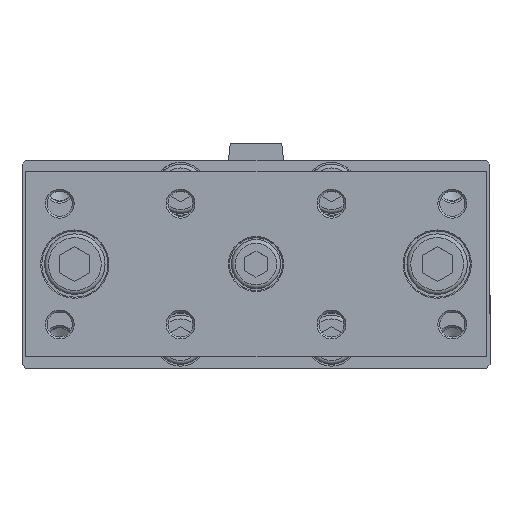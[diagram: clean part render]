
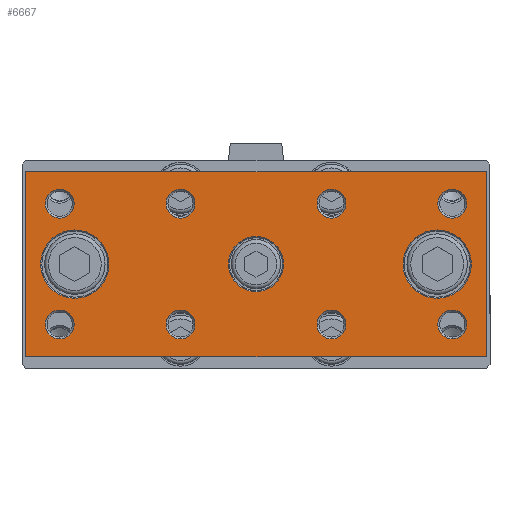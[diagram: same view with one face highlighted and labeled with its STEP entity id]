
A CAD part, top view. The second image highlights one B-rep face of the part: STEP entity #6667.
In plain terms, the highlighted planar face has unit normal (0, 0, 1).
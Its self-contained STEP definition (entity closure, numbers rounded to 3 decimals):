
#6503=CARTESIAN_POINT('',(-38.352,1.555,193.5));
#6504=VERTEX_POINT('',#6503);
#6505=CARTESIAN_POINT('',(-47.402,1.555,193.5));
#6506=DIRECTION('',(0.0,0.0,1.0));
#6507=DIRECTION('',(-1.0,0.0,0.0));
#6508=AXIS2_PLACEMENT_3D('',#6505,#6506,#6507);
#6509=CIRCLE('',#6508,9.05);
#6510=EDGE_CURVE('',#6504,#6504,#6509,.T.);
#6515=CARTESIAN_POINT('',(0.598,5.555,193.5));
#6516=DIRECTION('',(0.0,0.0,1.0));
#6517=DIRECTION('',(1.0,0.0,0.0));
#6518=AXIS2_PLACEMENT_3D('',#6515,#6516,#6517);
#6519=PLANE('',#6518);
#6520=CARTESIAN_POINT('',(61.598,26.055,193.5));
#6521=VERTEX_POINT('',#6520);
#6522=CARTESIAN_POINT('',(61.598,-22.945,193.5));
#6523=VERTEX_POINT('',#6522);
#6524=CARTESIAN_POINT('',(61.598,26.055,193.5));
#6525=DIRECTION('',(0.0,-1.0,0.0));
#6526=VECTOR('',#6525,49.);
#6527=LINE('',#6524,#6526);
#6528=EDGE_CURVE('',#6521,#6523,#6527,.T.);
#6529=ORIENTED_EDGE('',*,*,#6528,.F.);
#6530=CARTESIAN_POINT('',(-60.402,26.055,193.5));
#6531=VERTEX_POINT('',#6530);
#6532=CARTESIAN_POINT('',(-60.402,26.055,193.5));
#6533=DIRECTION('',(1.0,0.0,0.0));
#6534=VECTOR('',#6533,122.0);
#6535=LINE('',#6532,#6534);
#6536=EDGE_CURVE('',#6531,#6521,#6535,.T.);
#6537=ORIENTED_EDGE('',*,*,#6536,.F.);
#6538=CARTESIAN_POINT('',(-60.402,-22.945,193.5));
#6539=VERTEX_POINT('',#6538);
#6540=CARTESIAN_POINT('',(-60.402,-22.945,193.5));
#6541=DIRECTION('',(0.0,1.0,0.0));
#6542=VECTOR('',#6541,49.);
#6543=LINE('',#6540,#6542);
#6544=EDGE_CURVE('',#6539,#6531,#6543,.T.);
#6545=ORIENTED_EDGE('',*,*,#6544,.F.);
#6546=CARTESIAN_POINT('',(61.598,-22.945,193.5));
#6547=DIRECTION('',(-1.0,0.0,0.0));
#6548=VECTOR('',#6547,122.0);
#6549=LINE('',#6546,#6548);
#6550=EDGE_CURVE('',#6523,#6539,#6549,.T.);
#6551=ORIENTED_EDGE('',*,*,#6550,.F.);
#6552=EDGE_LOOP('',(#6529,#6537,#6545,#6551));
#6553=FACE_OUTER_BOUND('',#6552,.T.);
#6554=CARTESIAN_POINT('',(7.898,1.555,193.5));
#6555=VERTEX_POINT('',#6554);
#6556=CARTESIAN_POINT('',(0.598,1.555,193.5));
#6557=DIRECTION('',(0.0,0.0,1.0));
#6558=DIRECTION('',(-1.0,0.0,0.0));
#6559=AXIS2_PLACEMENT_3D('',#6556,#6557,#6558);
#6560=CIRCLE('',#6559,7.3);
#6561=EDGE_CURVE('',#6555,#6555,#6560,.T.);
#6562=ORIENTED_EDGE('',*,*,#6561,.F.);
#6563=EDGE_LOOP('',(#6562));
#6564=FACE_BOUND('',#6563,.T.);
#6565=CARTESIAN_POINT('',(24.422,-14.445,193.5));
#6566=VERTEX_POINT('',#6565);
#6567=CARTESIAN_POINT('',(20.598,-14.445,193.5));
#6568=DIRECTION('',(0.0,0.0,1.0));
#6569=DIRECTION('',(-1.0,0.0,0.0));
#6570=AXIS2_PLACEMENT_3D('',#6567,#6568,#6569);
#6571=CIRCLE('',#6570,3.824);
#6572=EDGE_CURVE('',#6566,#6566,#6571,.T.);
#6573=ORIENTED_EDGE('',*,*,#6572,.F.);
#6574=EDGE_LOOP('',(#6573));
#6575=FACE_BOUND('',#6574,.T.);
#6576=CARTESIAN_POINT('',(-47.578,-14.445,193.5));
#6577=VERTEX_POINT('',#6576);
#6578=CARTESIAN_POINT('',(-51.402,-14.445,193.5));
#6579=DIRECTION('',(0.0,0.0,1.0));
#6580=DIRECTION('',(-1.0,0.0,0.0));
#6581=AXIS2_PLACEMENT_3D('',#6578,#6579,#6580);
#6582=CIRCLE('',#6581,3.823);
#6583=EDGE_CURVE('',#6577,#6577,#6582,.T.);
#6584=ORIENTED_EDGE('',*,*,#6583,.F.);
#6585=EDGE_LOOP('',(#6584));
#6586=FACE_BOUND('',#6585,.T.);
#6587=CARTESIAN_POINT('',(56.422,17.555,193.5));
#6588=VERTEX_POINT('',#6587);
#6589=CARTESIAN_POINT('',(52.598,17.555,193.5));
#6590=DIRECTION('',(0.0,0.0,1.0));
#6591=DIRECTION('',(-1.0,0.0,0.0));
#6592=AXIS2_PLACEMENT_3D('',#6589,#6590,#6591);
#6593=CIRCLE('',#6592,3.823);
#6594=EDGE_CURVE('',#6588,#6588,#6593,.T.);
#6595=ORIENTED_EDGE('',*,*,#6594,.F.);
#6596=EDGE_LOOP('',(#6595));
#6597=FACE_BOUND('',#6596,.T.);
#6598=CARTESIAN_POINT('',(56.422,-14.445,193.5));
#6599=VERTEX_POINT('',#6598);
#6600=CARTESIAN_POINT('',(52.598,-14.445,193.5));
#6601=DIRECTION('',(0.0,0.0,1.0));
#6602=DIRECTION('',(-1.0,0.0,0.0));
#6603=AXIS2_PLACEMENT_3D('',#6600,#6601,#6602);
#6604=CIRCLE('',#6603,3.823);
#6605=EDGE_CURVE('',#6599,#6599,#6604,.T.);
#6606=ORIENTED_EDGE('',*,*,#6605,.F.);
#6607=EDGE_LOOP('',(#6606));
#6608=FACE_BOUND('',#6607,.T.);
#6609=CARTESIAN_POINT('',(-47.578,17.555,193.5));
#6610=VERTEX_POINT('',#6609);
#6611=CARTESIAN_POINT('',(-51.402,17.555,193.5));
#6612=DIRECTION('',(0.0,0.0,1.0));
#6613=DIRECTION('',(-1.0,0.0,0.0));
#6614=AXIS2_PLACEMENT_3D('',#6611,#6612,#6613);
#6615=CIRCLE('',#6614,3.823);
#6616=EDGE_CURVE('',#6610,#6610,#6615,.T.);
#6617=ORIENTED_EDGE('',*,*,#6616,.F.);
#6618=EDGE_LOOP('',(#6617));
#6619=FACE_BOUND('',#6618,.T.);
#6620=CARTESIAN_POINT('',(-15.578,17.555,193.5));
#6621=VERTEX_POINT('',#6620);
#6622=CARTESIAN_POINT('',(-19.402,17.555,193.5));
#6623=DIRECTION('',(0.0,0.0,1.0));
#6624=DIRECTION('',(-1.0,0.0,0.0));
#6625=AXIS2_PLACEMENT_3D('',#6622,#6623,#6624);
#6626=CIRCLE('',#6625,3.823);
#6627=EDGE_CURVE('',#6621,#6621,#6626,.T.);
#6628=ORIENTED_EDGE('',*,*,#6627,.F.);
#6629=EDGE_LOOP('',(#6628));
#6630=FACE_BOUND('',#6629,.T.);
#6631=CARTESIAN_POINT('',(24.422,17.555,193.5));
#6632=VERTEX_POINT('',#6631);
#6633=CARTESIAN_POINT('',(20.598,17.555,193.5));
#6634=DIRECTION('',(0.0,0.0,1.0));
#6635=DIRECTION('',(-1.0,0.0,0.0));
#6636=AXIS2_PLACEMENT_3D('',#6633,#6634,#6635);
#6637=CIRCLE('',#6636,3.824);
#6638=EDGE_CURVE('',#6632,#6632,#6637,.T.);
#6639=ORIENTED_EDGE('',*,*,#6638,.F.);
#6640=EDGE_LOOP('',(#6639));
#6641=FACE_BOUND('',#6640,.T.);
#6642=CARTESIAN_POINT('',(-15.578,-14.445,193.5));
#6643=VERTEX_POINT('',#6642);
#6644=CARTESIAN_POINT('',(-19.402,-14.445,193.5));
#6645=DIRECTION('',(0.0,0.0,1.0));
#6646=DIRECTION('',(-1.0,0.0,0.0));
#6647=AXIS2_PLACEMENT_3D('',#6644,#6645,#6646);
#6648=CIRCLE('',#6647,3.823);
#6649=EDGE_CURVE('',#6643,#6643,#6648,.T.);
#6650=ORIENTED_EDGE('',*,*,#6649,.F.);
#6651=EDGE_LOOP('',(#6650));
#6652=FACE_BOUND('',#6651,.T.);
#6653=CARTESIAN_POINT('',(57.648,1.555,193.5));
#6654=VERTEX_POINT('',#6653);
#6655=CARTESIAN_POINT('',(48.598,1.555,193.5));
#6656=DIRECTION('',(0.0,0.0,1.0));
#6657=DIRECTION('',(-1.0,0.0,0.0));
#6658=AXIS2_PLACEMENT_3D('',#6655,#6656,#6657);
#6659=CIRCLE('',#6658,9.05);
#6660=EDGE_CURVE('',#6654,#6654,#6659,.T.);
#6661=ORIENTED_EDGE('',*,*,#6660,.F.);
#6662=EDGE_LOOP('',(#6661));
#6663=FACE_BOUND('',#6662,.T.);
#6664=ORIENTED_EDGE('',*,*,#6510,.F.);
#6665=EDGE_LOOP('',(#6664));
#6666=FACE_BOUND('',#6665,.T.);
#6667=ADVANCED_FACE('',(#6553,#6564,#6575,#6586,#6597,#6608,#6619,#6630,#6641,#6652,#6663,#6666),#6519,.T.);
